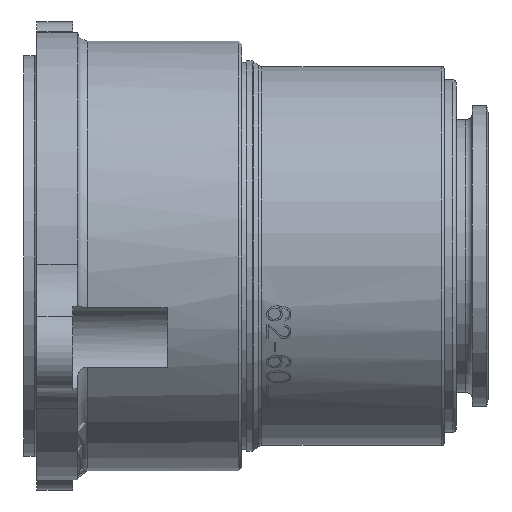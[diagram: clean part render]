
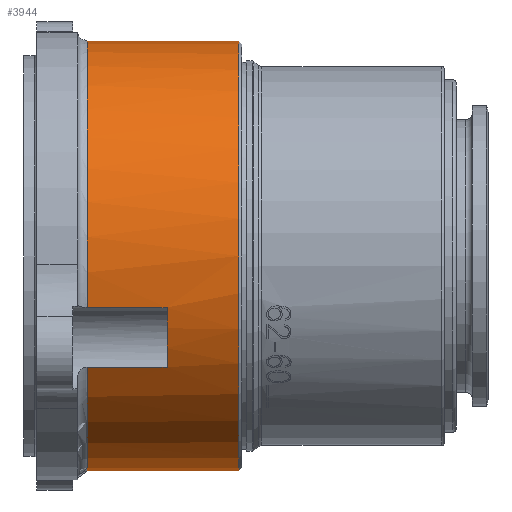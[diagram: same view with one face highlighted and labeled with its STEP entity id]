
A CAD part, left-side view. The second image highlights one B-rep face of the part: STEP entity #3944.
In plain terms, the highlighted cylindrical face has radius 33.528 mm (diameter 67.056 mm), a full revolution.
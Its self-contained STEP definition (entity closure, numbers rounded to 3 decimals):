
#79=LINE('',#6018,#159);
#80=LINE('',#6023,#160);
#81=LINE('',#6027,#161);
#82=LINE('',#6031,#162);
#83=LINE('',#6035,#163);
#84=LINE('',#6039,#164);
#159=VECTOR('',#4754,1000.);
#160=VECTOR('',#4757,1000.);
#161=VECTOR('',#4760,1000.);
#162=VECTOR('',#4763,1000.);
#163=VECTOR('',#4766,1000.);
#164=VECTOR('',#4769,1000.);
#380=CYLINDRICAL_SURFACE('',#4200,33.528);
#690=ORIENTED_EDGE('',*,*,#1224,.T.);
#691=ORIENTED_EDGE('',*,*,#1225,.F.);
#692=ORIENTED_EDGE('',*,*,#1226,.T.);
#693=ORIENTED_EDGE('',*,*,#1227,.F.);
#694=ORIENTED_EDGE('',*,*,#1228,.T.);
#695=ORIENTED_EDGE('',*,*,#1229,.F.);
#696=ORIENTED_EDGE('',*,*,#1230,.T.);
#697=ORIENTED_EDGE('',*,*,#1231,.F.);
#698=ORIENTED_EDGE('',*,*,#1232,.T.);
#699=ORIENTED_EDGE('',*,*,#1233,.F.);
#700=ORIENTED_EDGE('',*,*,#1234,.T.);
#701=ORIENTED_EDGE('',*,*,#1235,.F.);
#702=ORIENTED_EDGE('',*,*,#1236,.T.);
#1224=EDGE_CURVE('',#1543,#1543,#1749,.T.);
#1225=EDGE_CURVE('',#1544,#1545,#79,.T.);
#1226=EDGE_CURVE('',#1544,#1546,#1750,.T.);
#1227=EDGE_CURVE('',#1547,#1546,#80,.T.);
#1228=EDGE_CURVE('',#1547,#1548,#1751,.T.);
#1229=EDGE_CURVE('',#1549,#1548,#81,.T.);
#1230=EDGE_CURVE('',#1549,#1550,#1752,.T.);
#1231=EDGE_CURVE('',#1551,#1550,#82,.T.);
#1232=EDGE_CURVE('',#1551,#1552,#1753,.T.);
#1233=EDGE_CURVE('',#1553,#1552,#83,.T.);
#1234=EDGE_CURVE('',#1553,#1554,#1754,.T.);
#1235=EDGE_CURVE('',#1555,#1554,#84,.T.);
#1236=EDGE_CURVE('',#1555,#1545,#1755,.T.);
#1543=VERTEX_POINT('',#6017);
#1544=VERTEX_POINT('',#6019);
#1545=VERTEX_POINT('',#6020);
#1546=VERTEX_POINT('',#6022);
#1547=VERTEX_POINT('',#6024);
#1548=VERTEX_POINT('',#6026);
#1549=VERTEX_POINT('',#6028);
#1550=VERTEX_POINT('',#6030);
#1551=VERTEX_POINT('',#6032);
#1552=VERTEX_POINT('',#6034);
#1553=VERTEX_POINT('',#6036);
#1554=VERTEX_POINT('',#6038);
#1555=VERTEX_POINT('',#6040);
#1749=CIRCLE('',#4201,33.528);
#1750=CIRCLE('',#4202,33.528);
#1751=CIRCLE('',#4203,33.528);
#1752=CIRCLE('',#4204,33.528);
#1753=CIRCLE('',#4205,33.528);
#1754=CIRCLE('',#4206,33.528);
#1755=CIRCLE('',#4207,33.528);
#2014=EDGE_LOOP('',(#690));
#2015=EDGE_LOOP('',(#691,#692,#693,#694,#695,#696,#697,#698,#699,#700,#701,
#702));
#2337=FACE_BOUND('',#2014,.T.);
#2338=FACE_BOUND('',#2015,.T.);
#3944=ADVANCED_FACE('',(#2337,#2338),#380,.T.);
#4200=AXIS2_PLACEMENT_3D('',#6015,#4750,#4751);
#4201=AXIS2_PLACEMENT_3D('',#6016,#4752,#4753);
#4202=AXIS2_PLACEMENT_3D('',#6021,#4755,#4756);
#4203=AXIS2_PLACEMENT_3D('',#6025,#4758,#4759);
#4204=AXIS2_PLACEMENT_3D('',#6029,#4761,#4762);
#4205=AXIS2_PLACEMENT_3D('',#6033,#4764,#4765);
#4206=AXIS2_PLACEMENT_3D('',#6037,#4767,#4768);
#4207=AXIS2_PLACEMENT_3D('',#6041,#4770,#4771);
#4750=DIRECTION('',(0.,1.,0.));
#4751=DIRECTION('',(0.,0.,-1.));
#4752=DIRECTION('',(0.,1.,0.));
#4753=DIRECTION('',(0.,0.,-1.));
#4754=DIRECTION('',(0.,-1.,0.));
#4755=DIRECTION('',(0.,-1.,0.));
#4756=DIRECTION('',(0.,0.,-1.));
#4757=DIRECTION('',(0.,1.,0.));
#4758=DIRECTION('',(0.,-1.,0.));
#4759=DIRECTION('',(0.,0.,1.));
#4760=DIRECTION('',(0.,-1.,0.));
#4761=DIRECTION('',(0.,-1.,0.));
#4762=DIRECTION('',(0.,0.,-1.));
#4763=DIRECTION('',(0.,1.,0.));
#4764=DIRECTION('',(0.,-1.,0.));
#4765=DIRECTION('',(0.,0.,1.));
#4766=DIRECTION('',(0.,-1.,0.));
#4767=DIRECTION('',(0.,-1.,0.));
#4768=DIRECTION('',(0.,0.,-1.));
#4769=DIRECTION('',(0.,1.,0.));
#4770=DIRECTION('',(0.,-1.,0.));
#4771=DIRECTION('',(0.,0.,1.));
#6015=CARTESIAN_POINT('',(0.,-60.008,0.));
#6016=CARTESIAN_POINT('',(0.,3.048,0.));
#6017=CARTESIAN_POINT('',(0.,3.048,-33.528));
#6018=CARTESIAN_POINT('',(16.193,21.209,29.359));
#6019=CARTESIAN_POINT('',(16.193,26.67,29.359));
#6020=CARTESIAN_POINT('',(16.193,14.224,29.359));
#6021=CARTESIAN_POINT('',(0.,26.67,0.));
#6022=CARTESIAN_POINT('',(-32.549,26.67,-8.042));
#6023=CARTESIAN_POINT('',(-32.549,21.209,-8.042));
#6024=CARTESIAN_POINT('',(-32.549,14.224,-8.042));
#6025=CARTESIAN_POINT('',(0.,14.224,0.));
#6026=CARTESIAN_POINT('',(-28.703,14.224,-17.329));
#6027=CARTESIAN_POINT('',(-28.703,21.209,-17.329));
#6028=CARTESIAN_POINT('',(-28.703,26.67,-17.329));
#6029=CARTESIAN_POINT('',(0.,26.67,0.));
#6030=CARTESIAN_POINT('',(16.193,26.67,-29.359));
#6031=CARTESIAN_POINT('',(16.193,21.209,-29.359));
#6032=CARTESIAN_POINT('',(16.193,14.224,-29.359));
#6033=CARTESIAN_POINT('',(0.,14.224,0.));
#6034=CARTESIAN_POINT('',(24.167,14.224,-23.239));
#6035=CARTESIAN_POINT('',(24.167,21.209,-23.239));
#6036=CARTESIAN_POINT('',(24.167,14.529,-23.239));
#6037=CARTESIAN_POINT('',(0.,14.529,0.));
#6038=CARTESIAN_POINT('',(24.167,14.529,23.239));
#6039=CARTESIAN_POINT('',(24.167,21.209,23.239));
#6040=CARTESIAN_POINT('',(24.167,14.224,23.239));
#6041=CARTESIAN_POINT('',(0.,14.224,0.));
